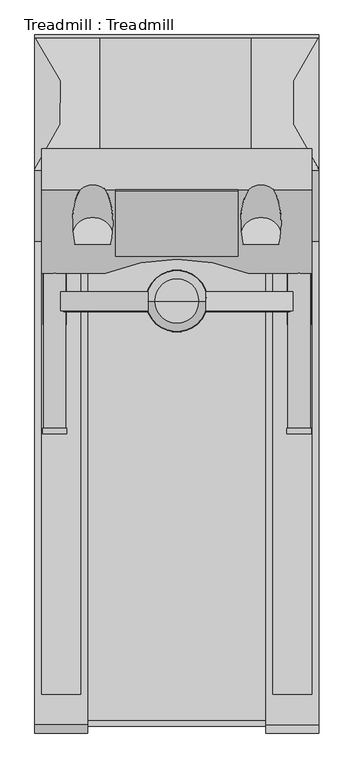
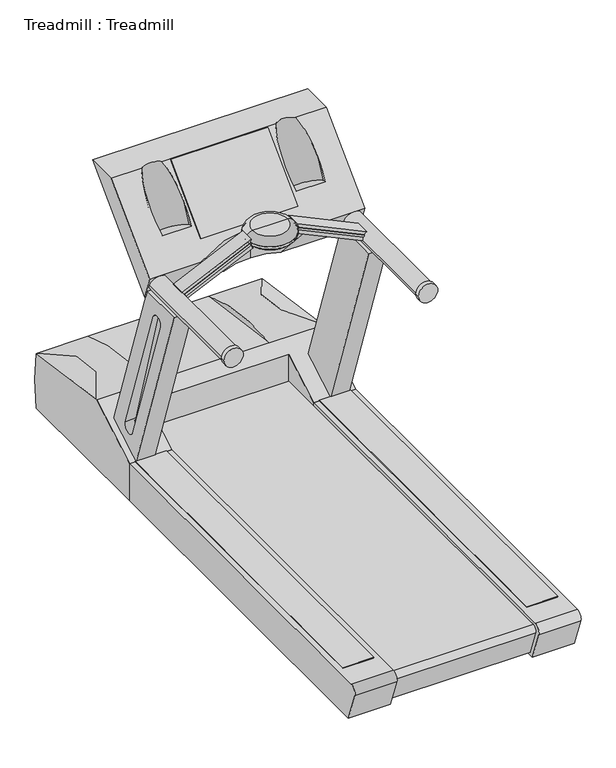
"""IFC4 building model written with IfcOpenShell, lengths in millimetres: proxy geometry, Treadmill : Treadmill."""

from ifc_helpers import new_model, si_unit, point, frame, frame_2d, origin, origin_with_axes, place, context, project, spatial, polyline, circle_curve, ellipse_curve, trimmed, segment, composite_curve, outline, extrude, source, transform, mapped, element, save
from ifc_brep_helpers import plane_surface, cylinder_surface, revolved_surface, advanced_brep


def treadmill_treadmill_ad7cba51(model_context):
    return source(origin(), model_context, "Body", "SolidModel", [
        advanced_brep(
        [(-349.1721585, 1352.55, 1114.5524225), (-539.8278415, 1352.55, 1114.5524225), (-444.5, 1352.55, 1114.5524225), (-349.1721585, 1352.55, 1105.8211725), (-539.8278415, 1352.55, 1105.8211725), (-444.5, 1352.55, 1105.8211725)],
        [
            (0, 1, circle_curve(frame((-444.5, 1352.55, 1114.5524225), z_axis=(0.0, 0.0, 1.0), x_axis=(-1.0, 0.0, 0.0)), 95.3278415)),
            (1, 2),
            (2, 0),
            (1, 0, circle_curve(frame((-444.5, 1352.55, 1114.5524225), z_axis=(0.0, 0.0, 1.0), x_axis=(-1.0, 0.0, 0.0)), 95.3278415)),
            (3, 4, circle_curve(frame((-444.5, 1352.55, 1105.8211725), z_axis=(0.0, 0.0, 1.0), x_axis=(-1.0, 0.0, 0.0)), 95.3278415)),
            (4, 1, circle_curve(frame((-533.827584, 1352.55, 1110.1867975), z_axis=(0.0, 1.0, 0.0), x_axis=(1.0, 0.0, 0.0)), 7.4203619)),
            (0, 3, circle_curve(frame((-355.172416, 1352.55, 1110.1867975), z_axis=(0.0, 1.0, 0.0), x_axis=(-1.0, 0.0, 0.0)), 7.4203619)),
            (4, 3, circle_curve(frame((-444.5, 1352.55, 1105.8211725), z_axis=(0.0, 0.0, 1.0), x_axis=(-1.0, 0.0, 0.0)), 95.3278415)),
            (5, 4),
            (3, 5),
        ],
        [
            plane_surface(frame((-444.5, 1352.55, 1114.5524225), z_axis=(0.0, 0.0, 1.0), x_axis=(-1.0, 0.0, 0.0))),
            revolved_surface(trimmed(ellipse_curve(frame((-533.827584, 1352.55, 1110.1867975), z_axis=(0.0, -1.0, 0.0), x_axis=(1.0, 0.0, 0.0)), 7.4203619, 7.4203619), [point((-539.8278415, 1352.55, 1114.5524225))], [point((-539.8278415, 1352.55, 1105.8211725))], True, "CARTESIAN"), (-444.5, 1352.55, 1105.8211725), (0.0, 0.0, -1.0)),
            plane_surface(frame((-444.5, 1352.55, 1105.8211725), z_axis=(0.0, 0.0, -1.0), x_axis=(-1.0, 0.0, 0.0))),
        ],
        [
            (0, [[1, 2, 3]]),
            (0, [[4, -3, -2]]),
            (1, [[5, 6, -1, 7]]),
            (1, [[8, -7, -4, -6]]),
            (2, [[9, -5, 10]]),
            (2, [[-10, -8, -9]]),
        ],
    ),
        extrude(outline(polyline([(1115.7430475, -351.0103633), (1107.377116, -354.9284687), (984.7314722, -93.0557072), (991.6787291, -86.1084503), (1115.7430475, -351.0103633)])), frame((0.0, 1319.6091786, 0.0), z_axis=(0.0, 1.0, 0.0), x_axis=(0.0, 0.0, 1.0)), (0.0, 0.0, 1.0), 3.175),
        extrude(outline(polyline([(1115.7430475, -537.9896367), (991.6787291, -802.8915497), (984.7314722, -795.9442928), (1107.377116, -534.0715313), (1115.7430475, -537.9896367)])), frame((0.0, 1319.6091786, 0.0), z_axis=(0.0, 1.0, 0.0), x_axis=(0.0, 0.0, 1.0)), (0.0, 0.0, 1.0), 3.175),
        extrude(outline(composite_curve([segment(polyline([(1002.5022314, -80.7346316), (1129.8023351, -353.730585)]), True, "CONTINUOUS"), segment(trimmed(circle_curve(frame_2d((1114.8477313, -375.5559384)), 26.4572528), [point((1129.8023351, -353.730585))], [point((1092.8061427, -360.9219163))], True, "CARTESIAN"), True, "CONTINUOUS"), segment(polyline([(1092.8061427, -360.9219163), (969.3593485, -96.1894118)]), True, "CONTINUOUS"), segment(trimmed(circle_curve(frame_2d((973.4986498, -61.8012111)), 34.6364282), [point((969.3593485, -96.1894118))], [point((1002.5022314, -80.7346316))], True, "CARTESIAN"), True, "CONTINUOUS")], self_intersect=False)), frame((0.0, 1322.7841786, 0.0), z_axis=(0.0, 1.0, 0.0), x_axis=(0.0, 0.0, 1.0)), (0.0, 0.0, 1.0), 58.6752674),
        extrude(outline(composite_curve([segment(trimmed(circle_curve(frame_2d((973.4986498, -827.1987889)), 34.6364282), [point((1002.5022314, -808.2653684))], [point((969.3593485, -792.8105882))], True, "CARTESIAN"), True, "CONTINUOUS"), segment(polyline([(969.3593485, -792.8105882), (1092.8061427, -528.0780837)]), True, "CONTINUOUS"), segment(trimmed(circle_curve(frame_2d((1114.8477313, -513.4440616)), 26.4572528), [point((1092.8061427, -528.0780837))], [point((1129.8023351, -535.269415))], True, "CARTESIAN"), True, "CONTINUOUS"), segment(polyline([(1129.8023351, -535.269415), (1002.5022314, -808.2653684)]), True, "CONTINUOUS")], self_intersect=False)), frame((0.0, 1322.7841786, 0.0), z_axis=(0.0, 1.0, 0.0), x_axis=(0.0, 0.0, 1.0)), (0.0, 0.0, 1.0), 58.6752674),
        advanced_brep(
        [(-514.35, 1352.55, 1090.0482505), (-374.65, 1352.55, 1090.0482505), (-444.5, 1352.55, 1090.0482505), (-514.35, 1352.55, 1140.8482505), (-374.65, 1352.55, 1140.8482505), (-444.5, 1352.55, 1140.8482505)],
        [
            (0, 1, circle_curve(frame((-444.5, 1352.55, 1090.0482505), z_axis=(0.0, 0.0, -1.0), x_axis=(1.0, 0.0, 0.0)), 69.85)),
            (1, 2),
            (2, 0),
            (1, 0, circle_curve(frame((-444.5, 1352.55, 1090.0482505), z_axis=(0.0, 0.0, -1.0), x_axis=(1.0, 0.0, 0.0)), 69.85)),
            (3, 4, circle_curve(frame((-444.5, 1352.55, 1140.8482505), z_axis=(0.0, 0.0, -1.0), x_axis=(1.0, 0.0, 0.0)), 69.85)),
            (4, 1, circle_curve(frame((-374.65, 1352.55, 1115.4482505), z_axis=(0.0, 1.0, 0.0), x_axis=(1.0, 0.0, 0.0)), 25.4)),
            (0, 3, circle_curve(frame((-514.35, 1352.55, 1115.4482505), z_axis=(0.0, 1.0, 0.0), x_axis=(-1.0, 0.0, 0.0)), 25.4)),
            (4, 3, circle_curve(frame((-444.5, 1352.55, 1140.8482505), z_axis=(0.0, 0.0, -1.0), x_axis=(1.0, 0.0, 0.0)), 69.85)),
            (5, 4),
            (3, 5),
        ],
        [
            plane_surface(frame((-444.5, 1352.55, 1090.0482505), z_axis=(0.0, 0.0, -1.0), x_axis=(1.0, 0.0, 0.0))),
            revolved_surface(trimmed(ellipse_curve(frame((-374.65, 1352.55, 1115.4482505), z_axis=(0.0, -1.0, 0.0), x_axis=(1.0, 0.0, 0.0)), 25.4, 25.4), [point((-374.65, 1352.55, 1090.0482505))], [point((-374.65, 1352.55, 1140.8482505))], True, "CARTESIAN"), (-444.5, 1352.55, 1140.8482505), (0.0, 0.0, 1.0)),
            plane_surface(frame((-444.5, 1352.55, 1140.8482505), z_axis=(0.0, 0.0, 1.0), x_axis=(1.0, 0.0, 0.0))),
        ],
        [
            (0, [[1, 2, 3]]),
            (0, [[4, -3, -2]]),
            (1, [[5, 6, -1, 7]]),
            (1, [[8, -7, -4, -6]]),
            (2, [[9, -5, 10]]),
            (2, [[-10, -8, -9]]),
        ],
    ),
        extrude(outline(composite_curve([segment(trimmed(circle_curve(frame_2d((973.5491284, -61.8652712)), 38.1), [point((973.5491284, -23.7652712))], [point((973.5491284, -99.9652712))], False, "CARTESIAN"), True, "CONTINUOUS"), segment(trimmed(circle_curve(frame_2d((973.5491284, -61.8652712)), 38.1), [point((973.5491284, -99.9652712))], [point((973.5491284, -23.7652712))], False, "CARTESIAN"), True, "CONTINUOUS")], self_intersect=False)), frame((0.0, 937.156351, 0.0), z_axis=(0.0, 1.0, 0.0), x_axis=(0.0, 0.0, 1.0)), (0.0, 0.0, 1.0), 17.3752344),
        extrude(outline(composite_curve([segment(trimmed(circle_curve(frame_2d((973.4986498, -61.8012111)), 34.6364282), [point((973.4986498, -27.1647829))], [point((973.4986498, -96.4376393))], False, "CARTESIAN"), True, "CONTINUOUS"), segment(trimmed(circle_curve(frame_2d((973.4986498, -61.8012111)), 34.6364282), [point((973.4986498, -96.4376393))], [point((973.4986498, -27.1647829))], False, "CARTESIAN"), True, "CONTINUOUS")], self_intersect=False)), frame((0.0, 954.5315853, 0.0), z_axis=(0.0, 1.0, 0.0), x_axis=(0.0, 0.0, 1.0)), (0.0, 0.0, 1.0), 528.1223193),
        extrude(outline(composite_curve([segment(trimmed(circle_curve(frame_2d((973.5491284, -827.1347288)), 38.1), [point((973.5491284, -865.2347288))], [point((973.5491284, -789.0347288))], False, "CARTESIAN"), True, "CONTINUOUS"), segment(trimmed(circle_curve(frame_2d((973.5491284, -827.1347288)), 38.1), [point((973.5491284, -789.0347288))], [point((973.5491284, -865.2347288))], False, "CARTESIAN"), True, "CONTINUOUS")], self_intersect=False)), frame((0.0, 937.156351, 0.0), z_axis=(0.0, 1.0, 0.0), x_axis=(0.0, 0.0, 1.0)), (0.0, 0.0, 1.0), 17.3752344),
        extrude(outline(composite_curve([segment(trimmed(circle_curve(frame_2d((973.4986498, -827.1987889)), 34.6364282), [point((973.4986498, -861.8352171))], [point((973.4986498, -792.5623607))], False, "CARTESIAN"), True, "CONTINUOUS"), segment(trimmed(circle_curve(frame_2d((973.4986498, -827.1987889)), 34.6364282), [point((973.4986498, -792.5623607))], [point((973.4986498, -861.8352171))], False, "CARTESIAN"), True, "CONTINUOUS")], self_intersect=False)), frame((0.0, 954.5315853, 0.0), z_axis=(0.0, 1.0, 0.0), x_axis=(0.0, 0.0, 1.0)), (0.0, 0.0, 1.0), 528.1223193),
        extrude(outline(polyline([(1700.9655905, 1270.0), (1494.5976053, 1063.6320148), (1492.5006609, 1064.7100704), (1697.7905905, 1270.0), (1700.9655905, 1270.0)])), frame((-636.2524063, 0.0, 0.0), z_axis=(1.0, 0.0, 0.0), x_axis=(0.0, 1.0, 0.0)), (0.0, 0.0, 1.0), 382.2381748),
        advanced_brep(
        [(-21.5810643, 1700.9655905, 1270.0), (-21.5810643, 1439.4528809, 1008.4872905), (-21.5810643, 1471.9818615, 914.0162711), (-21.5810643, 1827.9655905, 1270.0), (-867.4189357, 1700.9655905, 1270.0), (-867.4189357, 1827.9655905, 1270.0), (-867.4189357, 1471.9818615, 914.0162711), (-867.4189357, 1439.4528809, 1008.4872905), (-141.2212122, 1700.9655905, 1270.0), (-117.5520282, 1593.5543686, 1162.5887781), (-124.565807, 1530.5479483, 1099.5823578), (-237.5382494, 1530.5479483, 1099.5823578), (-244.5520282, 1593.5543686, 1162.5887781), (-220.8828442, 1700.9655905, 1270.0), (-668.1171558, 1700.9655905, 1270.0), (-644.4479718, 1593.5543686, 1162.5887781), (-651.4617506, 1530.5479483, 1099.5823578), (-764.434193, 1530.5479483, 1099.5823578), (-771.4479718, 1593.5543686, 1162.5887781), (-747.7787878, 1700.9655905, 1270.0), (-666.75, 1439.4528809, 1008.4872905), (-444.5, 1482.6539046, 1051.6883142), (-222.25, 1439.4528809, 1008.4872905), (-328.5288623, 1471.9818615, 914.0162711), (-560.4711377, 1471.9818615, 914.0162711), (-444.5, 1482.6539046, 924.6883142), (-644.4479718, 1556.6216029, 1086.8653868), (-771.4479718, 1556.6216029, 1086.8653868), (-117.5520282, 1556.6216029, 1086.8653868), (-244.5520282, 1556.6216029, 1086.8653868)],
        [
            (0, 1),
            (1, 2),
            (2, 3),
            (3, 0),
            (4, 5),
            (5, 6),
            (6, 7),
            (7, 4),
            (0, 8),
            (8, 9, ellipse_curve(frame((-181.0520282, 1593.5543686, 1162.5887781), z_axis=(0.0, 0.7071067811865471, -0.7071067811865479), x_axis=(0.0, 0.7071067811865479, 0.7071067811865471)), 195.0436464, 63.5)),
            (9, 10, ellipse_curve(frame((-181.0520282, 1593.5543686, 1162.5887781), z_axis=(0.0, 0.7071067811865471, -0.7071067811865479), x_axis=(0.0, 0.7071067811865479, 0.7071067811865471)), 195.0436464, 63.5)),
            (10, 11),
            (11, 12, ellipse_curve(frame((-181.0520282, 1593.5543686, 1162.5887781), z_axis=(0.0, 0.7071067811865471, -0.7071067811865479), x_axis=(0.0, 0.7071067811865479, 0.7071067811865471)), 195.0436464, 63.5)),
            (12, 13, ellipse_curve(frame((-181.0520282, 1593.5543686, 1162.5887781), z_axis=(0.0, 0.7071067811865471, -0.7071067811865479), x_axis=(0.0, 0.7071067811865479, 0.7071067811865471)), 195.0436464, 63.5)),
            (13, 14),
            (14, 15, ellipse_curve(frame((-707.9479718, 1593.5543686, 1162.5887781), z_axis=(0.0, 0.7071067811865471, -0.7071067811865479), x_axis=(0.0, 0.7071067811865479, 0.7071067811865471)), 195.0436464, 63.5)),
            (15, 16, ellipse_curve(frame((-707.9479718, 1593.5543686, 1162.5887781), z_axis=(0.0, 0.7071067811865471, -0.7071067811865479), x_axis=(0.0, 0.7071067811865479, 0.7071067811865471)), 195.0436464, 63.5)),
            (16, 17),
            (17, 18, ellipse_curve(frame((-707.9479718, 1593.5543686, 1162.5887781), z_axis=(0.0, 0.7071067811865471, -0.7071067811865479), x_axis=(0.0, 0.7071067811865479, 0.7071067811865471)), 195.0436464, 63.5)),
            (18, 19, ellipse_curve(frame((-707.9479718, 1593.5543686, 1162.5887781), z_axis=(0.0, 0.7071067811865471, -0.7071067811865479), x_axis=(0.0, 0.7071067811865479, 0.7071067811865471)), 195.0436464, 63.5)),
            (19, 4),
            (7, 20),
            (20, 21, ellipse_curve(frame((-451.8686761, 927.2733802, 496.3077897), z_axis=(0.0, 0.7071067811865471, -0.7071067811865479), x_axis=(0.0, 0.7071067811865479, 0.7071067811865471)), 785.495798, 555.4294054)),
            (21, 22, ellipse_curve(frame((-437.1313239, 927.2733802, 496.3077897), z_axis=(0.0, 0.7071067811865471, -0.7071067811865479), x_axis=(0.0, 0.7071067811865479, 0.7071067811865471)), 785.495798, 555.4294054)),
            (22, 1),
            (22, 23, ellipse_curve(frame((-437.1313239, 927.2733802, 2495.9645678), z_axis=(0.0, 0.9455185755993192, 0.32556815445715), x_axis=(0.0, -0.32556815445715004, 0.9455185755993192)), 1706.0311267, 555.4294054)),
            (23, 2),
            (6, 24),
            (24, 20, ellipse_curve(frame((-451.8686761, 927.2733802, 2495.9645678), z_axis=(0.0, 0.9455185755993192, 0.32556815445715), x_axis=(0.0, -0.32556815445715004, 0.9455185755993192)), 1706.0311267, 555.4294054)),
            (23, 25, ellipse_curve(frame((-437.1313239, 927.2733802, 369.3077897), z_axis=(0.0, -0.7071067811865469, 0.7071067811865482), x_axis=(0.0, 0.7071067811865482, 0.7071067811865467)), 785.495798, 555.4294054)),
            (25, 24, ellipse_curve(frame((-451.8686761, 927.2733802, 369.3077897), z_axis=(0.0, -0.7071067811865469, 0.7071067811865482), x_axis=(0.0, 0.7071067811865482, 0.7071067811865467)), 785.495798, 555.4294054)),
            (5, 3),
            (19, 14, ellipse_curve(frame((-707.9479718, 1645.9423219, 1270.0), z_axis=(0.0, 0.0, -1.0), x_axis=(0.0, 1.0, 0.0)), 70.6502232, 63.5)),
            (13, 8, ellipse_curve(frame((-181.0520282, 1645.9423219, 1270.0), z_axis=(0.0, 0.0, -1.0), x_axis=(0.0, 1.0, 0.0)), 70.6502232, 63.5)),
            (26, 27, circle_curve(frame((-707.9479718, 1556.6216029, 1086.8653868), z_axis=(0.0, 0.4383711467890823, 0.8987940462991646), x_axis=(1.0, 0.0, 0.0)), 63.5)),
            (27, 17, circle_curve(frame((-707.9479718, 1556.6216029, 1086.8653868), z_axis=(0.0, 0.4383711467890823, 0.8987940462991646), x_axis=(1.0, 0.0, 0.0)), 63.5)),
            (16, 26, circle_curve(frame((-707.9479718, 1556.6216029, 1086.8653868), z_axis=(0.0, 0.4383711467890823, 0.8987940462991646), x_axis=(1.0, 0.0, 0.0)), 63.5)),
            (27, 18),
            (15, 26),
            (28, 29, circle_curve(frame((-181.0520282, 1556.6216029, 1086.8653868), z_axis=(0.0, 0.4383711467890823, 0.8987940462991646), x_axis=(-1.0, 0.0, 0.0)), 63.5)),
            (29, 11, circle_curve(frame((-181.0520282, 1556.6216029, 1086.8653868), z_axis=(0.0, 0.4383711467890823, 0.8987940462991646), x_axis=(-1.0, 0.0, 0.0)), 63.5)),
            (10, 28, circle_curve(frame((-181.0520282, 1556.6216029, 1086.8653868), z_axis=(0.0, 0.4383711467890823, 0.8987940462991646), x_axis=(-1.0, 0.0, 0.0)), 63.5)),
            (28, 9),
            (12, 29),
            (21, 25),
        ],
        [
            plane_surface(frame((-21.5810643, 1439.4528809, 1008.4872905), z_axis=(1.0, 0.0, 0.0), x_axis=(0.0, -0.7071067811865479, -0.7071067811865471))),
            plane_surface(frame((-867.4189357, 1439.4528809, 1008.4872905), z_axis=(-1.0, 0.0, 0.0), x_axis=(0.0, 0.7071067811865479, 0.7071067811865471))),
            plane_surface(frame((-21.5810643, 1700.9655905, 1270.0), z_axis=(0.0, -0.7071067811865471, 0.7071067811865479), x_axis=(-1.0, 0.0, 0.0))),
            plane_surface(frame((-21.5810643, 1439.4528809, 1008.4872905), z_axis=(0.0, -0.9455185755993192, -0.32556815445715), x_axis=(-1.0, 0.0, 0.0))),
            plane_surface(frame((-21.5810643, 1471.9818615, 914.0162711), z_axis=(0.0, 0.7071067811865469, -0.7071067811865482), x_axis=(-1.0, 0.0, 0.0))),
            plane_surface(frame((-21.5810643, 1827.9655905, 1270.0), z_axis=(0.0, 0.0, 1.0), x_axis=(-1.0, 0.0, 0.0))),
            plane_surface(frame((-644.4479718, 1556.6216029, 1086.8653868), z_axis=(0.0, 0.4383711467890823, 0.8987940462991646), x_axis=(0.0, -0.8987940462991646, 0.4383711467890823))),
            revolved_surface(polyline([(-644.4479718, 1674.3976316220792, 1328.3420309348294), (-644.4479718, 1512.7111055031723, 996.8355253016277)]), (-707.9479718, 1556.6216029, 1086.8653868), (0.0, 0.4383711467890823, 0.8987940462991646)),
            plane_surface(frame((-244.5520282, 1556.6216029, 1086.8653868), z_axis=(0.0, 0.4383711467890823, 0.8987940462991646), x_axis=(0.0, 0.8987940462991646, -0.4383711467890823))),
            revolved_surface(polyline([(-244.5520282, 1674.3976316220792, 1328.3420309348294), (-244.5520282, 1512.7111055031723, 996.8355253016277)]), (-181.0520282, 1556.6216029, 1086.8653868), (0.0, 0.4383711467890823, 0.8987940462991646)),
            revolved_surface(polyline([(-992.5607292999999, 927.2733802, 4109.0486886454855), (-992.5607292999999, 927.2733802, -186.12161565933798)]), (-437.1313239, 927.2733802, 914.0162711), (0.0, 0.0, 1.0)),
            revolved_surface(polyline([(103.56072929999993, 927.2733802, 4109.0486886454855), (103.56072929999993, 927.2733802, -186.12161565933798)]), (-451.8686761, 927.2733802, 914.0162711), (0.0, 0.0, 1.0)),
        ],
        [
            (0, [[1, 2, 3, 4]]),
            (1, [[5, 6, 7, 8]]),
            (2, [[-1, 9, 10, 11, 12, 13, 14, 15, 16, 17, 18, 19, 20, 21, -8, 22, 23, 24, 25]]),
            (3, [[-2, -25, 26, 27]]),
            (3, [[-7, 28, 29, -22]]),
            (4, [[-3, -27, 30, 31, -28, -6, 32]]),
            (5, [[-4, -32, -5, -21, 33, -15, 34, -9]]),
            (6, [[35, 36, -18, 37]]),
            (7, [[-36, 38, -19]]),
            (7, [[-37, -17, 39]]),
            (7, [[-35, -39, -16, -33, -20, -38]]),
            (8, [[40, 41, -12, 42]]),
            (9, [[-40, 43, -10, -34, -14, 44]]),
            (9, [[-41, -44, -13]]),
            (9, [[-42, -11, -43]]),
            (10, [[45, -30, -26, -24]]),
            (11, [[-45, -23, -29, -31]]),
        ],
    ),
        advanced_brep(
        [(-824.9387113, 1563.5861071, 292.4120711), (-848.1898549, 1373.1040381, 847.1681159), (-848.4247924, 1372.7398829, 852.7735595), (-848.2876226, 1373.1040381, 849.5007853), (-825.0360996, 1563.5861071, 294.7356878), (-825.3331212, 1613.0660431, 301.8224166), (-845.0176399, 1373.1040381, 847.3010709), (-821.7664963, 1563.5861071, 292.5450261), (-822.1605265, 1613.0664564, 301.9463105), (-821.8631251, 1563.5861071, 294.8505205), (-845.1146481, 1373.1040381, 849.6156179), (-845.2521976, 1372.7394679, 852.8974534)],
        [
            (0, 1),
            (1, 2, circle_curve(frame((-848.3759074, 1398.1547124, 851.6071981), z_axis=(-0.9991228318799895, 0.0, -0.04187561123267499), x_axis=(-0.025781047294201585, 0.7880136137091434, 0.6151177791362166)), 25.4416263)),
            (2, 3, ellipse_curve(frame((-848.4736782, 1398.1547124, 853.93994), z_axis=(0.9991228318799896, 0.0, 0.041875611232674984), x_axis=(-0.04187561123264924, 0.0, 0.9991228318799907)), 25.4420414, 25.4416263)),
            (3, 4),
            (4, 5, ellipse_curve(frame((-825.3818186, 1587.6510073, 302.9843017), z_axis=(0.9991228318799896, 0.0, 0.041875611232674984), x_axis=(-0.04187561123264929, 0.0, 0.9991228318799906)), 25.4420414, 25.4416263)),
            (5, 0, circle_curve(frame((-825.2844247, 1587.6510073, 300.6605504), z_axis=(-0.9991228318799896, 0.0, -0.041875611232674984), x_axis=(0.0, 1.0, 0.0)), 25.4416263)),
            (6, 7),
            (7, 8, circle_curve(frame((-822.1122097, 1587.6510073, 300.7935054), z_axis=(0.9991228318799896, 0.0, 0.041875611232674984), x_axis=(0.0, 1.0, 0.0)), 25.4416263)),
            (8, 9, ellipse_curve(frame((-822.2088441, 1587.6510073, 303.0991343), z_axis=(-0.9991228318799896, 0.0, -0.041875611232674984), x_axis=(-0.04187561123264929, 0.0, 0.9991228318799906)), 25.4420414, 25.4416263)),
            (9, 10),
            (10, 11, ellipse_curve(frame((-845.3007036, 1398.1547124, 854.0547726), z_axis=(-0.9991228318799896, 0.0, -0.041875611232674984), x_axis=(-0.04187561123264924, 0.0, 0.9991228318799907)), 25.4420414, 25.4416263)),
            (11, 6, circle_curve(frame((-845.2036924, 1398.1547124, 851.7401532), z_axis=(0.9991228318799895, 0.0, 0.04187561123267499), x_axis=(-0.025781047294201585, 0.7880136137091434, 0.6151177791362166)), 25.4416263)),
            (0, 7),
            (6, 1),
            (11, 2),
            (5, 8),
            (3, 10),
            (9, 4),
        ],
        [
            plane_surface(frame((-849.6414399, 1361.2121106, 881.8019201), z_axis=(-0.9991228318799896, 0.0, -0.041875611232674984), x_axis=(-0.039609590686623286, -0.3244965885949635, 0.945057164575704))),
            plane_surface(frame((-846.4692249, 1361.2121106, 881.9348751), z_axis=(0.9991228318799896, 0.0, 0.041875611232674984), x_axis=(0.039609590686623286, 0.3244965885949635, -0.945057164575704))),
            plane_surface(frame((-824.9387113, 1563.5861071, 292.4120711), z_axis=(0.013588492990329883, -0.9458868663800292, -0.324211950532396), x_axis=(0.9991228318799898, 0.0, 0.04187561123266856))),
            cylinder_surface(frame((-845.2036924, 1398.1547124, 851.7401532), z_axis=(-0.9991228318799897, 0.0, -0.041875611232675), x_axis=(-0.025781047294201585, 0.7880136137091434, 0.6151177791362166)), 25.4416263),
            cylinder_surface(frame((-822.1122097, 1587.6510073, 300.7935054), z_axis=(-0.9991228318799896, 0.0, -0.041875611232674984), x_axis=(0.0, 1.0, 0.0)), 25.4416263),
            plane_surface(frame((-878.4983709, 1563.5861071, 292.8008432), z_axis=(-0.011736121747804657, 0.9458868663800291, 0.3242842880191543), x_axis=(0.9993457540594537, 0.0, 0.036167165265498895))),
            revolved_surface(polyline([(-849.1854261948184, 1418.2030602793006, 869.5877716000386), (-845.721952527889, 1418.2030602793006, 869.7131176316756)]), (-841.8407443, 1398.1547124, 854.1799914), (-0.9993457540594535, 0.0, -0.03616716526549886)),
            revolved_surface(polyline([(-825.52706813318, 1613.0926336, 302.9790449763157), (-822.0635945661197, 1613.0926336, 303.10439100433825)]), (-821.8970719, 1587.6510073, 303.1104176), (-0.9993457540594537, 0.0, -0.036167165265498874)),
        ],
        [
            (0, [[1, 2, 3, 4, 5, 6]]),
            (1, [[7, 8, 9, 10, 11, 12]]),
            (2, [[-1, 13, -7, 14]]),
            (3, [[-14, -12, 15, -2]]),
            (4, [[-13, -6, 16, -8]]),
            (5, [[17, -10, 18, -4]]),
            (6, [[-17, -3, -15, -11]]),
            (7, [[-18, -9, -16, -5]]),
        ],
    ),
        advanced_brep(
        [(-863.6, 1538.6841786, 188.3482505), (-863.6, 1278.4930176, 943.9982505), (-863.6, 1461.6582381, 943.9982505), (-863.6, 1691.0841786, 277.6969387), (-863.6, 1691.0841786, 188.3482505), (-863.6, 1563.5861071, 293.3400278), (-863.6, 1611.7065568, 309.8895036), (-863.6, 1420.4970688, 865.5699204), (-863.6, 1373.1040381, 848.9466174), (-790.4654534, 1538.6841786, 188.3482505), (-790.4654534, 1691.0841786, 188.3482505), (-790.4654534, 1691.0841786, 277.6969387), (-790.4654534, 1461.6582381, 943.9982505), (-790.4654534, 1278.4930176, 943.9982505), (-821.5984859, 1563.5861071, 294.860098), (-841.6800543, 1373.1040381, 849.7399188), (-842.2808787, 1420.4970688, 866.3414774), (-822.1966419, 1611.7065568, 311.387926)],
        [
            (0, 1),
            (1, 2),
            (2, 3),
            (3, 4),
            (4, 0),
            (5, 6, ellipse_curve(frame((-863.6, 1587.6510073, 301.6011535), z_axis=(1.0, 0.0, 0.0), x_axis=(0.0, 0.0, -1.0)), 25.4582823, 25.4416263)),
            (6, 7),
            (7, 8, ellipse_curve(frame((-863.6, 1398.1547124, 853.3925056), z_axis=(1.0, 0.0, 0.0), x_axis=(0.0, 0.0, -1.0)), 25.4582823, 25.4416263)),
            (8, 5),
            (9, 10),
            (10, 11),
            (11, 12),
            (12, 13),
            (13, 9),
            (0, 9),
            (13, 1),
            (12, 2),
            (11, 3),
            (10, 4),
            (14, 15),
            (15, 16, circle_curve(frame((-841.8407443, 1398.1547124, 854.1799914), z_axis=(-0.9993457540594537, 0.0, -0.03616716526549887), x_axis=(-0.022266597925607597, 0.7880136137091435, 0.6152550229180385)), 25.4416263)),
            (16, 17),
            (17, 14, circle_curve(frame((-821.8970719, 1587.6510073, 303.1104176), z_axis=(-0.9993457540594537, 0.0, -0.036167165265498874), x_axis=(0.0, 1.0, 0.0)), 25.4416263)),
            (14, 5),
            (8, 15),
            (7, 16),
            (6, 17),
        ],
        [
            plane_surface(frame((-863.6, 1287.1431337, 918.8764891), z_axis=(-1.0000000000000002, 0.0, 0.0), x_axis=(0.0, -0.3255681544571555, 0.9455185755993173))),
            plane_surface(frame((-790.4654534, 1287.1431337, 918.8764891), z_axis=(1.0000000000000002, 0.0, 0.0), x_axis=(0.0, 0.3255681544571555, -0.9455185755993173))),
            plane_surface(frame((-863.6, 1538.6841786, 188.3482505), z_axis=(0.0, -0.9455185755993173, -0.3255681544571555), x_axis=(1.0, 0.0, 0.0))),
            plane_surface(frame((-863.6, 1278.4930176, 943.9982505), z_axis=(0.0, 0.0, 1.0), x_axis=(1.0, 0.0, 0.0))),
            plane_surface(frame((-863.6, 1461.6582381, 943.9982505), z_axis=(0.0, 0.9455185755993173, 0.3255681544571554), x_axis=(1.0, 0.0, 0.0))),
            plane_surface(frame((-863.6, 1691.0841786, 277.6969387), z_axis=(0.0, 1.0, 0.0), x_axis=(1.0, 0.0, 0.0))),
            plane_surface(frame((-863.6, 1691.0841786, 188.3482505), z_axis=(0.0, 0.0, -1.0), x_axis=(1.0, 0.0, 0.0))),
            plane_surface(frame((-842.9337606, 1361.2121106, 884.3814504), z_axis=(-0.9993457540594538, 0.0, -0.03616716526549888), x_axis=(0.03421004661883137, 0.3244965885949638, -0.9452680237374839))),
            plane_surface(frame((-878.4983709, 1563.5861071, 292.8008432), z_axis=(-0.011736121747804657, 0.9458868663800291, 0.3242842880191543), x_axis=(0.9993457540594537, 0.0, 0.036167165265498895))),
            revolved_surface(polyline([(-865.0866499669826, 1418.2030602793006, 869.0122929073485), (-842.4072427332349, 1418.2030602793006, 869.8330797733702)]), (-841.8407443, 1398.1547124, 854.1799914), (-0.9993457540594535, 0.0, -0.03616716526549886)),
            plane_surface(frame((-899.1807638, 1420.4970688, 864.2822226), z_axis=(0.01177479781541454, -0.945519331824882, -0.32535295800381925), x_axis=(0.9993457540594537, 0.0, 0.036167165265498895))),
            revolved_surface(polyline([(-864.5201515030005, 1613.0926336, 301.567852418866), (-821.8970718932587, 1613.0926336, 303.110417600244)]), (-821.8970719, 1587.6510073, 303.1104176), (-0.9993457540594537, 0.0, -0.036167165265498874)),
        ],
        [
            (0, [[1, 2, 3, 4, 5], [6, 7, 8, 9]]),
            (1, [[10, 11, 12, 13, 14]]),
            (2, [[-1, 15, -14, 16]]),
            (3, [[-2, -16, -13, 17]]),
            (4, [[-3, -17, -12, 18]]),
            (5, [[-4, -18, -11, 19]]),
            (6, [[-5, -19, -10, -15]]),
            (7, [[20, 21, 22, 23]]),
            (8, [[-20, 24, -9, 25]]),
            (9, [[-21, -25, -8, 26]]),
            (10, [[-22, -26, -7, 27]]),
            (11, [[-23, -27, -6, -24]]),
        ],
    ),
        extrude(outline(composite_curve([segment(trimmed(circle_curve(frame_2d((0.0, -25.4416263)), 25.4416263), [point((-8.255721, -49.5065265))], [point((8.2829274, -1.3860768))], False, "CARTESIAN"), True, "CONTINUOUS"), segment(polyline([(8.2829274, -1.3860768), (563.5997926, -192.5955648)]), True, "CONTINUOUS"), segment(trimmed(circle_curve(frame_2d((551.4303448, -214.9379212)), 25.4416263), [point((563.5997926, -192.5955648))], [point((546.9873654, -239.9885955))], False, "CARTESIAN"), True, "CONTINUOUS"), segment(polyline([(546.9873654, -239.9885955), (-8.255721, -49.5065265)]), True, "CONTINUOUS")], self_intersect=False)), frame((-63.7155753, 1613.0926336, 300.6605504), z_axis=(-0.9991228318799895, 0.0, 0.04187561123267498), x_axis=(0.04187561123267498, 0.0, 0.9991228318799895)), (0.0, 0.0, 1.0), 3.175),
        extrude(outline(composite_curve([segment(trimmed(circle_curve(frame_2d((-108.006685, 2033.9841786)), 44.45), [point((-63.556685, 2033.9841786))], [point((-152.456685, 2033.9841786))], False, "CARTESIAN"), True, "CONTINUOUS"), segment(trimmed(circle_curve(frame_2d((-108.006685, 2033.9841786)), 44.45), [point((-152.456685, 2033.9841786))], [point((-63.556685, 2033.9841786))], False, "CARTESIAN"), True, "CONTINUOUS")], self_intersect=False)), origin_with_axes(), (0.0, 0.0, 1.0), 34.3330453),
        extrude(outline(composite_curve([segment(trimmed(circle_curve(frame_2d((-780.993315, 2033.9841786)), 44.45), [point((-825.443315, 2033.9841786))], [point((-736.543315, 2033.9841786))], False, "CARTESIAN"), True, "CONTINUOUS"), segment(trimmed(circle_curve(frame_2d((-780.993315, 2033.9841786)), 44.45), [point((-736.543315, 2033.9841786))], [point((-825.443315, 2033.9841786))], False, "CARTESIAN"), True, "CONTINUOUS")], self_intersect=False)), origin_with_axes(), (0.0, 0.0, 1.0), 34.3330453),
        extrude(outline(composite_curve([segment(trimmed(circle_curve(frame_2d((-108.006685, 154.3841786)), 44.45), [point((-63.556685, 154.3841786))], [point((-152.456685, 154.3841786))], False, "CARTESIAN"), True, "CONTINUOUS"), segment(trimmed(circle_curve(frame_2d((-108.006685, 154.3841786)), 44.45), [point((-152.456685, 154.3841786))], [point((-63.556685, 154.3841786))], False, "CARTESIAN"), True, "CONTINUOUS")], self_intersect=False)), origin_with_axes(), (0.0, 0.0, 1.0), 34.3330453),
        extrude(outline(composite_curve([segment(trimmed(circle_curve(frame_2d((-780.993315, 154.3841786)), 44.45), [point((-825.443315, 154.3841786))], [point((-736.543315, 154.3841786))], False, "CARTESIAN"), True, "CONTINUOUS"), segment(trimmed(circle_curve(frame_2d((-780.993315, 154.3841786)), 44.45), [point((-736.543315, 154.3841786))], [point((-825.443315, 154.3841786))], False, "CARTESIAN"), True, "CONTINUOUS")], self_intersect=False)), origin_with_axes(), (0.0, 0.0, 1.0), 34.3330453),
        advanced_brep(
        [(-25.4, 1538.6841786, 188.3482505), (-25.4, 1691.0841786, 188.3482505), (-25.4, 1691.0841786, 277.6969387), (-25.4, 1461.6582381, 943.9982505), (-25.4, 1278.4930176, 943.9982505), (-25.4, 1611.7065568, 309.8895036), (-25.4, 1563.5861071, 293.3400278), (-25.4, 1373.1040381, 848.9466174), (-25.4, 1420.4970688, 865.5699204), (-98.5345466, 1538.6841786, 188.3482505), (-98.5345466, 1278.4930176, 943.9982505), (-98.5345466, 1461.6582381, 943.9982505), (-98.5345466, 1691.0841786, 277.6969387), (-98.5345466, 1691.0841786, 188.3482505), (-67.4015141, 1563.5861071, 294.860098), (-66.8033581, 1611.7065568, 311.387926), (-46.7191213, 1420.4970688, 866.3414774), (-47.3199457, 1373.1040381, 849.7399188)],
        [
            (0, 1),
            (1, 2),
            (2, 3),
            (3, 4),
            (4, 0),
            (5, 6, ellipse_curve(frame((-25.4, 1587.6510073, 301.6011535), z_axis=(-1.0, 0.0, 0.0), x_axis=(0.0, 0.0, -1.0)), 25.4582823, 25.4416263)),
            (6, 7),
            (7, 8, ellipse_curve(frame((-25.4, 1398.1547124, 853.3925056), z_axis=(-1.0, 0.0, 0.0), x_axis=(0.0, 0.0, -1.0)), 25.4582823, 25.4416263)),
            (8, 5),
            (9, 10),
            (10, 11),
            (11, 12),
            (12, 13),
            (13, 9),
            (0, 9),
            (13, 1),
            (12, 2),
            (11, 3),
            (10, 4),
            (14, 15, circle_curve(frame((-67.1029281, 1587.6510073, 303.1104176), z_axis=(0.9993457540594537, 0.0, -0.036167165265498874), x_axis=(0.0, 1.0, 0.0)), 25.4416263)),
            (15, 16),
            (16, 17, circle_curve(frame((-47.1592557, 1398.1547124, 854.1799914), z_axis=(0.9993457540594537, 0.0, -0.03616716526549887), x_axis=(0.022266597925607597, 0.7880136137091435, 0.6152550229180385)), 25.4416263)),
            (17, 14),
            (14, 6),
            (5, 15),
            (8, 16),
            (7, 17),
        ],
        [
            plane_surface(frame((-25.4, 1538.6841786, 188.3482505), z_axis=(1.0, 0.0, 0.0), x_axis=(0.0, 1.0, 0.0))),
            plane_surface(frame((-98.5345466, 1538.6841786, 188.3482505), z_axis=(-1.0, 0.0, 0.0), x_axis=(0.0, -1.0, 0.0))),
            plane_surface(frame((-25.4, 1538.6841786, 188.3482505), z_axis=(0.0, 0.0, -1.0), x_axis=(-1.0, 0.0, 0.0))),
            plane_surface(frame((-25.4, 1691.0841786, 188.3482505), z_axis=(0.0, 1.0, 0.0), x_axis=(-1.0, 0.0, 0.0))),
            plane_surface(frame((-25.4, 1691.0841786, 277.6969387), z_axis=(0.0, 0.9455185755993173, 0.3255681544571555), x_axis=(-1.0, 0.0, 0.0))),
            plane_surface(frame((-25.4, 1461.6582381, 943.9982505), z_axis=(0.0, 0.0, 1.0), x_axis=(-1.0, 0.0, 0.0))),
            plane_surface(frame((-25.4, 1278.4930176, 943.9982505), z_axis=(0.0, -0.9455185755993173, -0.32556815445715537), x_axis=(-1.0, 0.0, 0.0))),
            plane_surface(frame((-67.1029281, 1613.0926336, 303.1104176), z_axis=(0.9993457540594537, 0.0, -0.036167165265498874), x_axis=(-0.036167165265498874, 0.0, -0.9993457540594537))),
            revolved_surface(polyline([(-24.479848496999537, 1613.0926336, 301.567852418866), (-67.10292810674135, 1613.0926336, 303.110417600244)]), (-67.1029281, 1587.6510073, 303.1104176), (0.9993457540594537, 0.0, -0.036167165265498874)),
            plane_surface(frame((-9.9034731, 1611.7065568, 309.3286712), z_axis=(-0.011774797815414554, -0.9455193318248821, -0.3253529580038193), x_axis=(-0.9993457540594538, 0.0, 0.036167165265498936))),
            revolved_surface(polyline([(-23.913350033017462, 1418.2030602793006, 869.0122929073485), (-46.59275726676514, 1418.2030602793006, 869.8330797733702)]), (-47.1592557, 1398.1547124, 854.1799914), (0.9993457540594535, 0.0, -0.03616716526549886)),
            plane_surface(frame((9.5799394, 1373.1040381, 847.680664), z_axis=(0.011736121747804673, 0.9458868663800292, 0.32428428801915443), x_axis=(-0.9993457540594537, 0.0, 0.03616716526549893))),
        ],
        [
            (0, [[1, 2, 3, 4, 5], [6, 7, 8, 9]]),
            (1, [[10, 11, 12, 13, 14]]),
            (2, [[-1, 15, -14, 16]]),
            (3, [[-2, -16, -13, 17]]),
            (4, [[-3, -17, -12, 18]]),
            (5, [[-4, -18, -11, 19]]),
            (6, [[-5, -19, -10, -15]]),
            (7, [[20, 21, 22, 23]]),
            (8, [[-20, 24, -6, 25]]),
            (9, [[-21, -25, -9, 26]]),
            (10, [[-22, -26, -8, 27]]),
            (11, [[-23, -27, -7, -24]]),
        ],
    ),
        extrude(outline(composite_curve([segment(polyline([(1538.6841786, 34.3330453), (47.0687069, 34.3330453), (3.4185234, 154.2609389)]), True, "CONTINUOUS"), segment(trimmed(circle_curve(frame_2d((27.2867159, 162.9482505)), 25.4), [point((3.4185234, 154.2609389))], [point((27.2867159, 188.3482505))], False, "CARTESIAN"), True, "CONTINUOUS"), segment(polyline([(27.2867159, 188.3482505), (1538.6841786, 188.3482505), (1538.6841786, 34.3330453)]), True, "CONTINUOUS")], self_intersect=False)), frame((-889.0, 0.0, 0.0), z_axis=(1.0, 0.0, 0.0), x_axis=(0.0, 1.0, 0.0)), (0.0, 0.0, 1.0), 165.1),
        extrude(outline(composite_curve([segment(polyline([(1538.6841786, 34.3330453), (47.0687069, 34.3330453), (3.4185234, 154.2609389)]), True, "CONTINUOUS"), segment(trimmed(circle_curve(frame_2d((27.2867159, 162.9482505)), 25.4), [point((3.4185234, 154.2609389))], [point((27.2867159, 188.3482505))], False, "CARTESIAN"), True, "CONTINUOUS"), segment(polyline([(27.2867159, 188.3482505), (1538.6841786, 188.3482505), (1538.6841786, 34.3330453)]), True, "CONTINUOUS")], self_intersect=False)), frame((-165.1, 0.0, 0.0), z_axis=(1.0, 0.0, 0.0), x_axis=(0.0, 1.0, 0.0)), (0.0, 0.0, 1.0), 165.1),
        advanced_brep(
        [(-165.1, 1538.6841786, 175.6482505), (-165.1, 41.8903981, 175.6482505), (-165.1, 23.9892537, 150.0827668), (-165.1, 61.4962849, 47.0330453), (-165.1, 1538.6841786, 47.0330453), (-723.9, 1538.6841786, 47.0330453), (-723.9, 61.4962849, 47.0330453), (-723.9, 23.9892537, 150.0827668), (-723.9, 41.8903981, 175.6482505), (-723.9, 1538.6841786, 175.6482505), (-165.1, 1708.5010442, 175.6482505), (-723.9, 1708.5010442, 175.6482505), (0.0, 1761.8357146, 319.1769711), (0.0, 1538.6841786, 188.3482505), (0.0, 1538.6841786, 34.3330453), (0.0, 2173.6841786, 34.3330453), (0.0, 2173.8349565, 262.1369291), (0.0, 1765.2848676, 319.5548996), (-889.0, 2173.6841786, 34.3330453), (-889.0, 1538.6841786, 34.3330453), (-889.0, 1538.6841786, 188.3482505), (-889.0, 1761.8357146, 319.1769711), (-889.0, 1765.2848676, 319.5548996), (-889.0, 2173.8349565, 262.1369291), (-886.3238132, 2173.6841786, 262.9330453), (-686.4527593, 2173.6841786, 262.9330453), (-210.3302763, 2173.6841786, 262.9330453), (-2.6761868, 2173.6841786, 262.9330453), (-210.3302763, 1761.8357146, 319.1769711), (-686.4527593, 1761.8357146, 319.1769711), (-723.9, 1538.6841786, 188.3482505), (-723.9, 1708.5010442, 287.9080548), (-165.1, 1708.5010442, 287.9080548), (-165.1, 1538.6841786, 188.3482505)],
        [
            (0, 1),
            (1, 2, circle_curve(frame((-165.1, 41.8903981, 156.5982505), z_axis=(1.0, 0.0, 0.0), x_axis=(0.0, 1.0, 0.0)), 19.05)),
            (2, 3),
            (3, 4),
            (4, 0),
            (5, 6),
            (6, 7),
            (7, 8, circle_curve(frame((-723.9, 41.8903981, 156.5982505), z_axis=(-1.0, 0.0, 0.0), x_axis=(0.0, 1.0, 0.0)), 19.05)),
            (8, 9),
            (9, 5),
            (0, 10),
            (10, 11),
            (11, 9),
            (8, 1),
            (7, 2),
            (6, 3),
            (5, 4),
            (12, 13),
            (13, 14),
            (14, 15),
            (15, 16, circle_curve(frame((0.0, 1572.3509725, 148.6330453), z_axis=(1.0, 0.0, 0.0), x_axis=(0.0, 1.0, 0.0)), 612.0997588)),
            (16, 17),
            (17, 12, circle_curve(frame((0.0, 1856.1841786, -525.9631501), z_axis=(1.0, 0.0, 0.0), x_axis=(0.0, 1.0, 0.0)), 850.3901793)),
            (18, 19),
            (19, 20),
            (20, 21),
            (21, 22, circle_curve(frame((-889.0, 1856.1841786, -525.9631501), z_axis=(-1.0, 0.0, 0.0), x_axis=(0.0, 1.0, 0.0)), 850.3901793)),
            (22, 23),
            (23, 18, circle_curve(frame((-889.0, 1572.3509725, 148.6330453), z_axis=(-1.0, 0.0, 0.0), x_axis=(0.0, 1.0, 0.0)), 612.0997588)),
            (15, 18),
            (23, 24, ellipse_curve(frame((-1572.9156714, 1572.3509725, 148.6330453), z_axis=(0.27563735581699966, -0.13378177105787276, -0.9519067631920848), x_axis=(0.9612616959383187, 0.03836130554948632, 0.2729548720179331)), 2220.6705509, 612.0997588)),
            (24, 25),
            (25, 26),
            (26, 27),
            (27, 16, ellipse_curve(frame((683.9156714, 1572.3509725, 148.6330453), z_axis=(-0.27563735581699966, -0.13378177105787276, -0.9519067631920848), x_axis=(0.9612616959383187, -0.03836130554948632, -0.2729548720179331)), 2220.6705509, 612.0997588)),
            (28, 12),
            (17, 27, ellipse_curve(frame((2875.8572172, 1856.1841786, -525.9631501), z_axis=(-0.27563735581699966, -0.13378177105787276, -0.9519067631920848), x_axis=(0.9612616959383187, -0.03836130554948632, -0.2729548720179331)), 3085.1775398, 850.3901793)),
            (26, 28, circle_curve(frame((-210.3302763, 1856.1841786, -525.9631501), z_axis=(1.0, 0.0, 0.0), x_axis=(0.0, 1.0, 0.0)), 850.3901793)),
            (21, 29),
            (29, 25, circle_curve(frame((-686.4527593, 1856.1841786, -525.9631501), z_axis=(-1.0, 0.0, 0.0), x_axis=(0.0, 1.0, 0.0)), 850.3901793)),
            (24, 22, ellipse_curve(frame((-3764.8572172, 1856.1841786, -525.9631501), z_axis=(0.27563735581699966, -0.13378177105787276, -0.9519067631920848), x_axis=(0.9612616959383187, 0.03836130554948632, 0.2729548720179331)), 3085.1775398, 850.3901793)),
            (28, 29),
            (20, 30),
            (30, 31),
            (31, 32),
            (32, 33),
            (33, 13),
            (33, 0),
            (9, 30),
            (19, 14),
            (32, 10),
            (11, 31),
            (26, 28),
            (29, 25),
        ],
        [
            plane_surface(frame((-165.1, 14.6841786, 175.6482505), z_axis=(1.0, 0.0, 0.0), x_axis=(0.0, -1.0, 0.0))),
            plane_surface(frame((-723.9, 14.6841786, 175.6482505), z_axis=(-1.0, 0.0, 0.0), x_axis=(0.0, 1.0, 0.0))),
            plane_surface(frame((-165.1, 1538.6841786, 175.6482505), z_axis=(0.0, 0.0, 1.0), x_axis=(-1.0, 0.0, 0.0))),
            cylinder_surface(frame((-723.9, 41.8903981, 156.5982505), z_axis=(1.0, 0.0, 0.0), x_axis=(0.0, 1.0, 0.0)), 19.05),
            plane_surface(frame((-165.1, 23.9892537, 150.0827668), z_axis=(0.0, -0.9396926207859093, -0.34202014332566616), x_axis=(-1.0, 0.0, 0.0))),
            plane_surface(frame((-165.1, 61.4962849, 47.0330453), z_axis=(0.0, 0.0, -1.0), x_axis=(-1.0, 0.0, 0.0))),
            plane_surface(frame((0.0, 2184.4507313, 148.6330453), z_axis=(1.0, 0.0, 0.0), x_axis=(0.0, 0.0, 1.0))),
            plane_surface(frame((-889.0, 2184.4507313, 148.6330453), z_axis=(-1.0, 0.0, 0.0), x_axis=(0.0, 0.0, -1.0))),
            cylinder_surface(frame((-889.0, 1572.3509725, 148.6330453), z_axis=(1.0, 0.0, 0.0), x_axis=(0.0, 1.0, 0.0)), 612.0997588),
            cylinder_surface(frame((-889.0, 1856.1841786, -525.9631501), z_axis=(1.0, 0.0, 0.0), x_axis=(0.0, 1.0, 0.0)), 850.3901793),
            plane_surface(frame((0.0, 1761.8357146, 319.1769711), z_axis=(0.0, -0.5057648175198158, 0.8626714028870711), x_axis=(-1.0, 0.0, 0.0))),
            plane_surface(frame((0.0, 1538.6841786, 188.3482505), z_axis=(0.0, -1.0, 0.0), x_axis=(-1.0, 0.0, 0.0))),
            plane_surface(frame((0.0, 1538.6841786, 34.3330453), z_axis=(0.0, 0.0, -1.0), x_axis=(-1.0, 0.0, 0.0))),
            plane_surface(frame((-165.1, 1538.6841786, 175.6482505), z_axis=(-1.0, 0.0, 0.0), x_axis=(0.0, 0.0, -1.0))),
            plane_surface(frame((-723.9, 1538.6841786, 175.6482505), z_axis=(1.0, 0.0, 0.0), x_axis=(0.0, 0.0, 1.0))),
            plane_surface(frame((-165.1, 1708.5010442, 175.6482505), z_axis=(0.0, -1.0, 0.0), x_axis=(-1.0, 0.0, 0.0))),
            plane_surface(frame((-210.3302763, 2706.5743578, -525.9631501), z_axis=(-1.0, 0.0, 0.0), x_axis=(0.0, 0.0, 1.0))),
            plane_surface(frame((-686.4527593, 2706.5743578, -525.9631501), z_axis=(1.0, 0.0, 0.0), x_axis=(0.0, 0.0, -1.0))),
            plane_surface(frame((-210.3302763, 1761.8357146, 319.1769711), z_axis=(0.0, 0.13530869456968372, 0.9908034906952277), x_axis=(-1.0, 0.0, 0.0))),
            plane_surface(frame((-889.0, 1761.6379615, 320.0674388), z_axis=(-0.27563735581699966, 0.13378177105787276, 0.9519067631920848), x_axis=(0.0, 0.9902680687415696, -0.13917310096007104))),
            plane_surface(frame((-109.8722118, 1766.0226587, 351.2661807), z_axis=(0.27563735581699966, 0.13378177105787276, 0.9519067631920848), x_axis=(0.0, 0.9902680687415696, -0.13917310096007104))),
        ],
        [
            (0, [[1, 2, 3, 4, 5]]),
            (1, [[6, 7, 8, 9, 10]]),
            (2, [[-1, 11, 12, 13, -9, 14]]),
            (3, [[-2, -14, -8, 15]]),
            (4, [[-3, -15, -7, 16]]),
            (5, [[-4, -16, -6, 17]]),
            (6, [[18, 19, 20, 21, 22, 23]]),
            (7, [[24, 25, 26, 27, 28, 29]]),
            (8, [[30, -29, 31, 32, 33, 34, 35, -21]]),
            (9, [[36, -23, 37, -34, 38]]),
            (9, [[39, 40, -32, 41, -27]]),
            (10, [[-18, -36, 42, -39, -26, 43, 44, 45, 46, 47]]),
            (11, [[-19, -47, 48, -5, -17, -10, 49, -43, -25, 50]]),
            (12, [[-20, -50, -24, -30]]),
            (13, [[51, -11, -48, -46]]),
            (14, [[-13, 52, -44, -49]]),
            (15, [[-51, -45, -52, -12]]),
            (16, [[53, -38]]),
            (17, [[54, -40]]),
            (18, [[-53, -33, -54, -42]]),
            (19, [[-28, -41, -31]]),
            (20, [[-22, -35, -37]]),
        ],
    ),
        extrude(outline(polyline([(-867.4189357, 122.6341786), (-867.4189357, 1538.6841786), (-745.3676942, 1538.6841786), (-745.3676942, 122.6341786), (-867.4189357, 122.6341786)])), frame((0.0, 0.0, 188.3482505), z_axis=(0.0, 0.0, 1.0), x_axis=(1.0, 0.0, 0.0)), (0.0, 0.0, 1.0), 3.571875),
        extrude(outline(polyline([(-21.5810643, 1538.6841786), (-21.5810643, 122.6341786), (-143.6323058, 122.6341786), (-143.6323058, 1538.6841786), (-21.5810643, 1538.6841786)])), frame((0.0, 0.0, 188.3482505), z_axis=(0.0, 0.0, 1.0), x_axis=(1.0, 0.0, 0.0)), (0.0, 0.0, 1.0), 3.571875),
    ])


if __name__ == "__main__":
    model = new_model("IFC4")
    model_context = context("Model", 3, world=origin())
    ifc_project = project(units=[si_unit("LENGTHUNIT", "METRE", prefix="MILLI")], contexts=[model_context])
    site = spatial("IfcSite", under=ifc_project)
    building = spatial("IfcBuilding", under=site)
    placement = place(None, origin())
    treadmill_treadmill_shape = treadmill_treadmill_ad7cba51(model_context)
    element("IfcBuildingElementProxy", 1, Name="Treadmill : Treadmill", ObjectType="Treadmill : Treadmill", at=placement, inside=building, context=model_context, shape_type="MappedRepresentation", body=[
        mapped(treadmill_treadmill_shape, transform((0.0, 0.0, 0.0), x_axis=(1.0, 0.0, 0.0), y_axis=(0.0, 1.0, 0.0), z_axis=(0.0, 0.0, 1.0))),
    ])
    save(model, "model.ifc")
